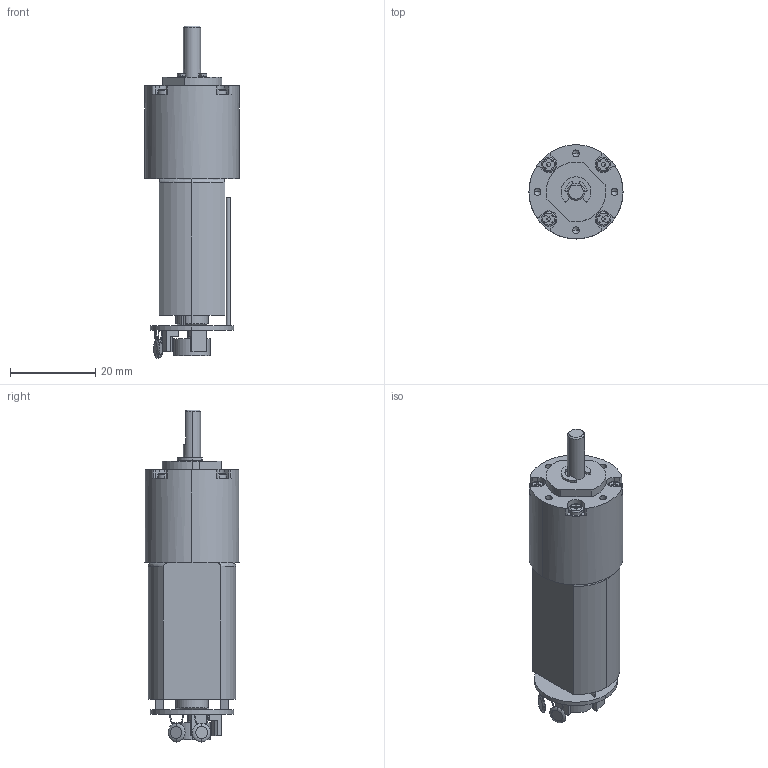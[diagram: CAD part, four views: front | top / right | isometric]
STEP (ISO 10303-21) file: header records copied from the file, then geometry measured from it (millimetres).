
FILE_DESCRIPTION((''),' ');
FILE_NAME('dsmp220n_3_enc.stp',' ',('R. Lindner'),('MSW GmbH'),' ','ACIS 14.0',' ');
FILE_SCHEMA(('automotive_design'));
Length unit declared in the file: inch
Products named in the file (1): dsmp220_3_enc
Bounding box: 22 x 22 x 77.7 mm (x, y, z)
Volume: 18304.1 mm3; surface area: 6758 mm2
Topology: 1 solids, 4 shells, 343 faces, 895 edges, 570 vertices
Faces by surface type: cylinder 153, plane 139, torus 30, cone 21
Entity records: 13433 total; most frequent: DIRECTION 1960, CARTESIAN_POINT 1959, ORIENTED_EDGE 1758, EDGE_CURVE 879, AXIS2_PLACEMENT_3D 759, VERTEX_POINT 570, LINE 442, VECTOR 442
